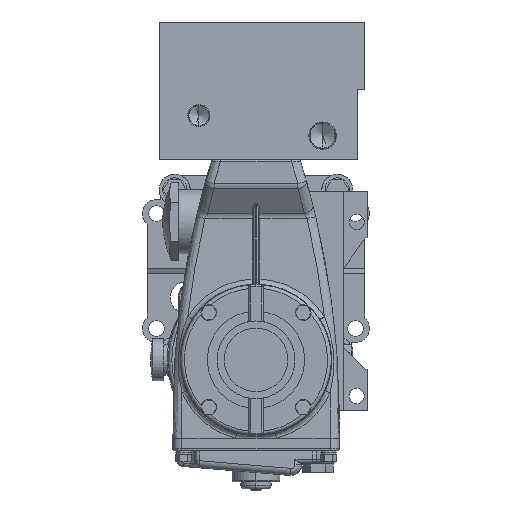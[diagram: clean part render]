
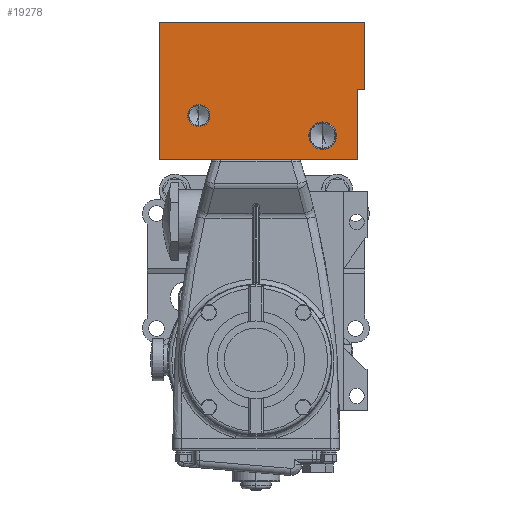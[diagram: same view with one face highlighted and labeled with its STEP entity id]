
A CAD part, left-side view. The second image highlights one B-rep face of the part: STEP entity #19278.
In plain terms, the highlighted planar face has unit normal (-1, 0, 0).
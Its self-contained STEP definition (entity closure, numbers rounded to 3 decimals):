
#1053 = CARTESIAN_POINT ( 'NONE',  ( -75.247, 41.021, 167.551 ) ) ;
#1618 = AXIS2_PLACEMENT_3D ( 'NONE', #9637, #9390, #41995 ) ;
#1749 = AXIS2_PLACEMENT_3D ( 'NONE', #57196, #23589, #18524 ) ;
#2642 = CIRCLE ( 'NONE', #1749, 9.886 ) ;
#2908 = AXIS2_PLACEMENT_3D ( 'NONE', #44811, #60738, #45028 ) ;
#2921 = EDGE_LOOP ( 'NONE', ( #20891, #52795 ) ) ;
#6579 = CARTESIAN_POINT ( 'NONE',  ( -75.247, -78.105, 194.437 ) ) ;
#6661 = VERTEX_POINT ( 'NONE', #1053 ) ;
#8378 = CARTESIAN_POINT ( 'NONE',  ( -75.247, 69.215, 143.637 ) ) ;
#9390 = DIRECTION ( 'NONE',  ( 1., 0., 0. ) ) ;
#9420 = EDGE_CURVE ( 'NONE', #65788, #12759, #38997, .T. ) ;
#9637 = CARTESIAN_POINT ( 'NONE',  ( -75.247, -47.879, 161.036 ) ) ;
#9890 = CARTESIAN_POINT ( 'NONE',  ( -75.247, -73.025, 143.637 ) ) ;
#10768 = LINE ( 'NONE', #42944, #36668 ) ;
#12759 = VERTEX_POINT ( 'NONE', #28986 ) ;
#13005 = CARTESIAN_POINT ( 'NONE',  ( -75.247, -78.105, 242.697 ) ) ;
#14741 = EDGE_CURVE ( 'NONE', #12759, #45073, #69094, .T. ) ;
#14997 = ORIENTED_EDGE ( 'NONE', *, *, #45875, .T. ) ;
#16985 = CIRCLE ( 'NONE', #2908, 7.963 ) ;
#17306 = CIRCLE ( 'NONE', #1618, 9.886 ) ;
#18091 = VECTOR ( 'NONE', #67953, 1000. ) ;
#18334 = VERTEX_POINT ( 'NONE', #68795 ) ;
#18524 = DIRECTION ( 'NONE',  ( 0., 0., 1. ) ) ;
#19278 = ADVANCED_FACE ( 'NONE', ( #62114, #54483, #69156 ), #35768, .T. ) ;
#19924 = VERTEX_POINT ( 'NONE', #60709 ) ;
#20891 = ORIENTED_EDGE ( 'NONE', *, *, #62828, .T. ) ;
#22259 = EDGE_CURVE ( 'NONE', #44652, #19924, #48394, .T. ) ;
#23221 = CARTESIAN_POINT ( 'NONE',  ( -75.247, -47.879, 170.922 ) ) ;
#23520 = CARTESIAN_POINT ( 'NONE',  ( -75.247, 69.215, 194.437 ) ) ;
#23589 = DIRECTION ( 'NONE',  ( 1., 0., 0. ) ) ;
#23781 = CARTESIAN_POINT ( 'NONE',  ( -75.247, 41.021, 183.477 ) ) ;
#24976 = DIRECTION ( 'NONE',  ( 0., 0., 1. ) ) ;
#27973 = VERTEX_POINT ( 'NONE', #23781 ) ;
#28060 = DIRECTION ( 'NONE',  ( 0., 0., 1. ) ) ;
#28913 = EDGE_CURVE ( 'NONE', #18334, #57186, #2642, .T. ) ;
#28986 = CARTESIAN_POINT ( 'NONE',  ( -75.247, -73.025, 194.437 ) ) ;
#30269 = VECTOR ( 'NONE', #56525, 1000. ) ;
#30615 = EDGE_CURVE ( 'NONE', #27973, #6661, #49889, .T. ) ;
#31217 = EDGE_LOOP ( 'NONE', ( #65927, #38777 ) ) ;
#31253 = EDGE_CURVE ( 'NONE', #19924, #48261, #66939, .T. ) ;
#32278 = EDGE_LOOP ( 'NONE', ( #61681, #14997, #69133, #59054, #41829, #57167 ) ) ;
#33024 = VECTOR ( 'NONE', #28060, 1000. ) ;
#34532 = CARTESIAN_POINT ( 'NONE',  ( -75.247, -73.025, 242.697 ) ) ;
#34553 = CARTESIAN_POINT ( 'NONE',  ( -75.247, 69.215, 143.637 ) ) ;
#35768 = PLANE ( 'NONE',  #54635 ) ;
#36668 = VECTOR ( 'NONE', #48966, 1000. ) ;
#37057 = EDGE_CURVE ( 'NONE', #45073, #44652, #50390, .T. ) ;
#37654 = CARTESIAN_POINT ( 'NONE',  ( -75.247, -73.025, 143.637 ) ) ;
#38777 = ORIENTED_EDGE ( 'NONE', *, *, #66941, .T. ) ;
#38997 = LINE ( 'NONE', #66880, #33024 ) ;
#41829 = ORIENTED_EDGE ( 'NONE', *, *, #37057, .T. ) ;
#41995 = DIRECTION ( 'NONE',  ( 0., 0., 1. ) ) ;
#42232 = DIRECTION ( 'NONE',  ( 0., -1., 0. ) ) ;
#42944 = CARTESIAN_POINT ( 'NONE',  ( -75.247, 69.215, 143.637 ) ) ;
#44652 = VERTEX_POINT ( 'NONE', #13005 ) ;
#44811 = CARTESIAN_POINT ( 'NONE',  ( -75.247, 41.021, 175.514 ) ) ;
#45028 = DIRECTION ( 'NONE',  ( 0., 0., 1. ) ) ;
#45073 = VERTEX_POINT ( 'NONE', #6579 ) ;
#45875 = EDGE_CURVE ( 'NONE', #48261, #65788, #10768, .T. ) ;
#48261 = VERTEX_POINT ( 'NONE', #34553 ) ;
#48394 = LINE ( 'NONE', #34532, #30269 ) ;
#48966 = DIRECTION ( 'NONE',  ( 0., -1., 0. ) ) ;
#49889 = CIRCLE ( 'NONE', #55586, 7.963 ) ;
#50390 = LINE ( 'NONE', #52997, #66877 ) ;
#52506 = DIRECTION ( 'NONE',  ( 1., 0., 0. ) ) ;
#52795 = ORIENTED_EDGE ( 'NONE', *, *, #28913, .T. ) ;
#52997 = CARTESIAN_POINT ( 'NONE',  ( -75.247, -78.105, 143.637 ) ) ;
#54483 = FACE_BOUND ( 'NONE', #31217, .T. ) ;
#54635 = AXIS2_PLACEMENT_3D ( 'NONE', #9890, #58686, #42232 ) ;
#55586 = AXIS2_PLACEMENT_3D ( 'NONE', #57831, #52506, #24976 ) ;
#55723 = VECTOR ( 'NONE', #57919, 1000. ) ;
#56525 = DIRECTION ( 'NONE',  ( 0., 1., 0. ) ) ;
#57167 = ORIENTED_EDGE ( 'NONE', *, *, #22259, .T. ) ;
#57186 = VERTEX_POINT ( 'NONE', #23221 ) ;
#57196 = CARTESIAN_POINT ( 'NONE',  ( -75.247, -47.879, 161.036 ) ) ;
#57831 = CARTESIAN_POINT ( 'NONE',  ( -75.247, 41.021, 175.514 ) ) ;
#57919 = DIRECTION ( 'NONE',  ( 0., 0., -1. ) ) ;
#58686 = DIRECTION ( 'NONE',  ( -1., 0., 0. ) ) ;
#59054 = ORIENTED_EDGE ( 'NONE', *, *, #14741, .T. ) ;
#60709 = CARTESIAN_POINT ( 'NONE',  ( -75.247, 69.215, 242.697 ) ) ;
#60738 = DIRECTION ( 'NONE',  ( 1., 0., 0. ) ) ;
#61681 = ORIENTED_EDGE ( 'NONE', *, *, #31253, .T. ) ;
#62114 = FACE_OUTER_BOUND ( 'NONE', #32278, .T. ) ;
#62828 = EDGE_CURVE ( 'NONE', #57186, #18334, #17306, .T. ) ;
#65788 = VERTEX_POINT ( 'NONE', #37654 ) ;
#65927 = ORIENTED_EDGE ( 'NONE', *, *, #30615, .T. ) ;
#66877 = VECTOR ( 'NONE', #69172, 1000. ) ;
#66880 = CARTESIAN_POINT ( 'NONE',  ( -75.247, -73.025, 143.637 ) ) ;
#66939 = LINE ( 'NONE', #8378, #55723 ) ;
#66941 = EDGE_CURVE ( 'NONE', #6661, #27973, #16985, .T. ) ;
#67953 = DIRECTION ( 'NONE',  ( 0., -1., 0. ) ) ;
#68795 = CARTESIAN_POINT ( 'NONE',  ( -75.247, -47.879, 151.15 ) ) ;
#69094 = LINE ( 'NONE', #23520, #18091 ) ;
#69133 = ORIENTED_EDGE ( 'NONE', *, *, #9420, .T. ) ;
#69156 = FACE_BOUND ( 'NONE', #2921, .T. ) ;
#69172 = DIRECTION ( 'NONE',  ( 0., 0., 1. ) ) ;
